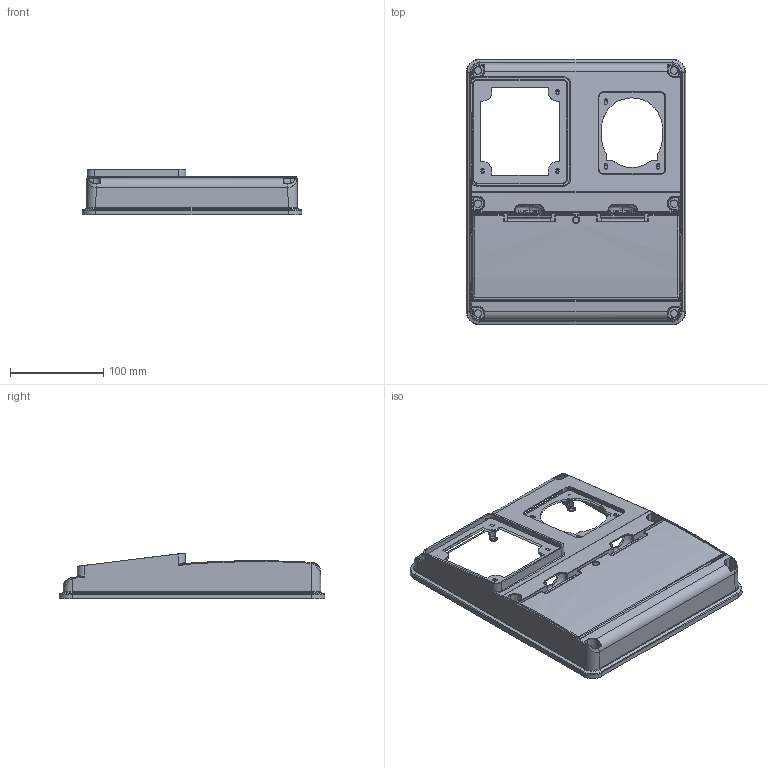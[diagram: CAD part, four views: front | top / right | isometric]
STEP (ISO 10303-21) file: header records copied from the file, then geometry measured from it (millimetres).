
FILE_DESCRIPTION(/* description */ (''),/* implementation_level */ '2;1');
FILE_NAME(/* name */ '4002733.stp',/* time_stamp */ '2017-04-11T17:58:45+02:00',/* author */ (''),/* organization */ (''),/* preprocessor_version */ 'ST-DEVELOPER v16',/* originating_system */ 'SIEMENS PLM Software NX 11.0',/* authorisation */ '');
FILE_SCHEMA (('AUTOMOTIVE_DESIGN { 1 0 10303 214 3 1 1 1 }'));
Length unit declared in the file: millimetre
Products named in the file (1): 4002733_LINKEDEXT_jt
Bounding box: 235 x 285 x 49.22 mm (x, y, z)
Surface area: 217818.4 mm2 (no closed solid volume)
Topology: 0 solids, 45 shells, 740 faces, 2952 edges, 2171 vertices
Faces by surface type: bspline 256, cylinder 243, plane 145, torus 61, cone 31, sphere 4
Entity records: 42032 total; most frequent: CARTESIAN_POINT 19079, DIRECTION 4625, ORIENTED_EDGE 4004, EDGE_CURVE 2933, VERTEX_POINT 2168, AXIS2_PLACEMENT_3D 1757, LINE 1111, VECTOR 1111
